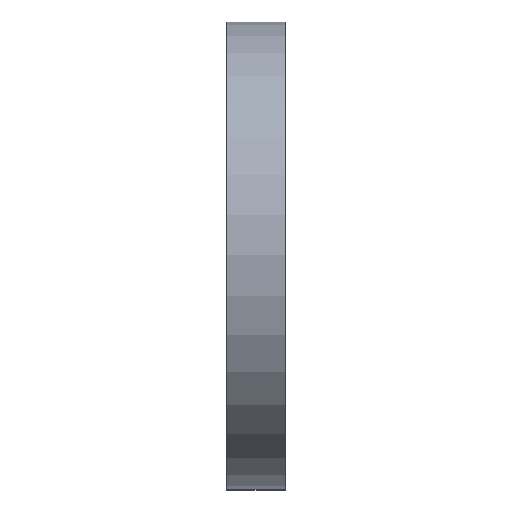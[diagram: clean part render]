
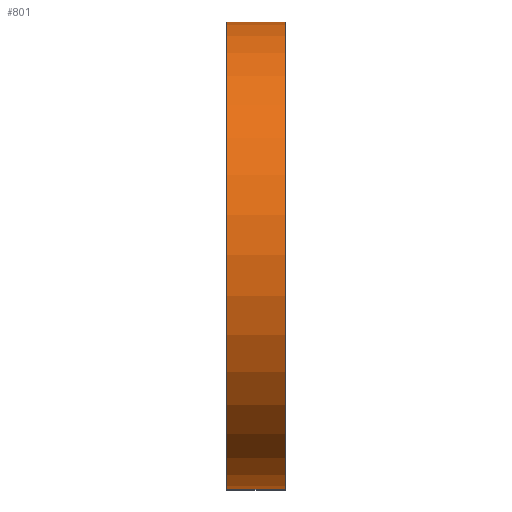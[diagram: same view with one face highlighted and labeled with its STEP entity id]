
A CAD part, top view. The second image highlights one B-rep face of the part: STEP entity #801.
In plain terms, the highlighted cylindrical face has radius 76.2 mm (diameter 152.4 mm), a partial arc.
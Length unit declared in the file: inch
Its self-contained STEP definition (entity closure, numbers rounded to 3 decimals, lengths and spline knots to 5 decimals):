
#51=CYLINDRICAL_SURFACE('',#875,3.);
#82=FACE_OUTER_BOUND('',#138,.T.);
#138=EDGE_LOOP('',(#633,#634,#635,#636));
#173=CIRCLE('',#856,3.);
#181=CIRCLE('',#865,3.);
#251=LINE('',#1271,#342);
#252=LINE('',#1273,#343);
#342=VECTOR('',#1013,0.75);
#343=VECTOR('',#1016,0.75);
#375=VERTEX_POINT('',#1122);
#381=VERTEX_POINT('',#1134);
#411=VERTEX_POINT('',#1195);
#412=VERTEX_POINT('',#1197);
#453=EDGE_CURVE('',#375,#381,#173,.T.);
#483=EDGE_CURVE('',#411,#412,#181,.T.);
#521=EDGE_CURVE('',#375,#411,#251,.T.);
#522=EDGE_CURVE('',#381,#412,#252,.T.);
#633=ORIENTED_EDGE('',*,*,#483,.F.);
#634=ORIENTED_EDGE('',*,*,#521,.F.);
#635=ORIENTED_EDGE('',*,*,#453,.T.);
#636=ORIENTED_EDGE('',*,*,#522,.T.);
#801=ADVANCED_FACE('',(#82),#51,.T.);
#856=AXIS2_PLACEMENT_3D('',#1136,#923,#924);
#865=AXIS2_PLACEMENT_3D('',#1198,#963,#964);
#875=AXIS2_PLACEMENT_3D('',#1272,#1014,#1015);
#923=DIRECTION('center_axis',(-1.,0.,0.));
#924=DIRECTION('ref_axis',(0.,1.,0.));
#963=DIRECTION('center_axis',(-1.,0.,0.));
#964=DIRECTION('ref_axis',(0.,1.,0.));
#1013=DIRECTION('',(-1.,0.,0.));
#1014=DIRECTION('center_axis',(-1.,0.,0.));
#1015=DIRECTION('ref_axis',(0.,0.,1.));
#1016=DIRECTION('',(-1.,0.,0.));
#1122=CARTESIAN_POINT('',(2.75,-3.,6.25));
#1134=CARTESIAN_POINT('',(2.75,3.,6.25));
#1136=CARTESIAN_POINT('Origin',(2.75,0.,6.25));
#1195=CARTESIAN_POINT('',(2.,-3.,6.25));
#1197=CARTESIAN_POINT('',(2.,3.,6.25));
#1198=CARTESIAN_POINT('Origin',(2.,0.,6.25));
#1271=CARTESIAN_POINT('',(2.75,-3.,6.25));
#1272=CARTESIAN_POINT('Origin',(2.75,0.,6.25));
#1273=CARTESIAN_POINT('',(2.75,3.,6.25));
